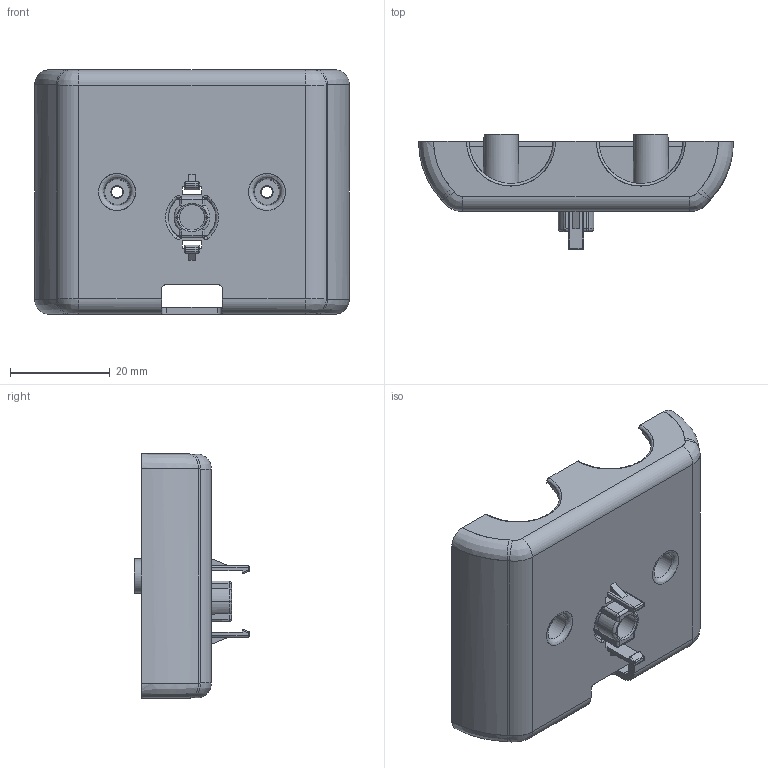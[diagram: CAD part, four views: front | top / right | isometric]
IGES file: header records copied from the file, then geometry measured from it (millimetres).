
Global section: file name: Filename.iges; native system: Open CASCADE 7.5; preprocessor: Open CASCADE IGES processor 7.5; date: 20210414.170848; units: millimetre
Bounding box: 63 x 23.13 x 49 mm (x, y, z)
Surface area: 11955.3 mm2 (no closed solid volume)
Topology: 0 solids, 0 shells, 254 faces, 1380 edges, 1361 vertices
Faces by surface type: plane 117, revolution 95, bspline 42
